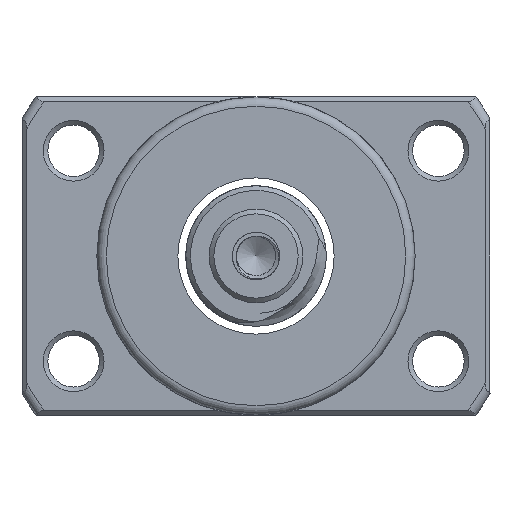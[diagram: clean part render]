
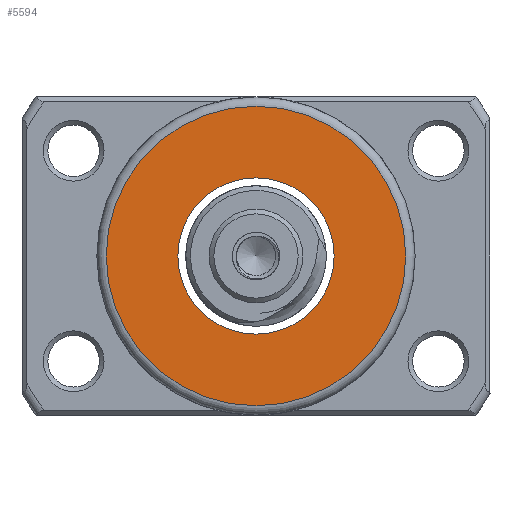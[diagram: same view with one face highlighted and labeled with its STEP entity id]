
A CAD part, left-side view. The second image highlights one B-rep face of the part: STEP entity #5594.
In plain terms, the highlighted planar face has unit normal (-1, 0, 0).
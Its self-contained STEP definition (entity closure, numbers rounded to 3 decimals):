
#840 = AXIS2_PLACEMENT_3D ( 'NONE', #7115, #13583, #3031 ) ;
#1220 = DIRECTION ( 'NONE',  ( -1., 0., 0. ) ) ;
#3031 = DIRECTION ( 'NONE',  ( 0., 0., 1. ) ) ;
#3067 = DIRECTION ( 'NONE',  ( -1., 0., 0. ) ) ;
#3305 = AXIS2_PLACEMENT_3D ( 'NONE', #16338, #3067, #4423 ) ;
#3460 = ORIENTED_EDGE ( 'NONE', *, *, #15374, .T. ) ;
#4423 = DIRECTION ( 'NONE',  ( 0., 0., 1. ) ) ;
#4923 = CIRCLE ( 'NONE', #840, 8.35 ) ;
#5594 = ADVANCED_FACE ( 'NONE', ( #9308, #6667 ), #14492, .T. ) ;
#6667 = FACE_BOUND ( 'NONE', #12564, .T. ) ;
#7115 = CARTESIAN_POINT ( 'NONE',  ( -53.324, 0., 0. ) ) ;
#8085 = CARTESIAN_POINT ( 'NONE',  ( -53.324, 0., 16. ) ) ;
#8153 = ORIENTED_EDGE ( 'NONE', *, *, #10769, .F. ) ;
#9308 = FACE_OUTER_BOUND ( 'NONE', #10406, .T. ) ;
#10229 = VERTEX_POINT ( 'NONE', #13039 ) ;
#10406 = EDGE_LOOP ( 'NONE', ( #3460 ) ) ;
#10569 = VERTEX_POINT ( 'NONE', #8085 ) ;
#10769 = EDGE_CURVE ( 'NONE', #10229, #10229, #4923, .T. ) ;
#11687 = CARTESIAN_POINT ( 'NONE',  ( -53.324, 8.35, 0. ) ) ;
#12564 = EDGE_LOOP ( 'NONE', ( #8153 ) ) ;
#13039 = CARTESIAN_POINT ( 'NONE',  ( -53.324, 0., 8.35 ) ) ;
#13583 = DIRECTION ( 'NONE',  ( -1., 0., 0. ) ) ;
#14180 = CIRCLE ( 'NONE', #3305, 16. ) ;
#14492 = PLANE ( 'NONE',  #15870 ) ;
#15374 = EDGE_CURVE ( 'NONE', #10569, #10569, #14180, .T. ) ;
#15870 = AXIS2_PLACEMENT_3D ( 'NONE', #11687, #1220, #16711 ) ;
#16338 = CARTESIAN_POINT ( 'NONE',  ( -53.324, 0., 0. ) ) ;
#16711 = DIRECTION ( 'NONE',  ( 0., 0., 1. ) ) ;
